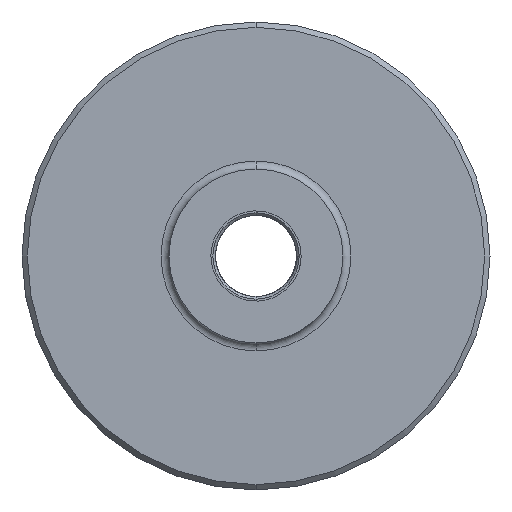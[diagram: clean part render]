
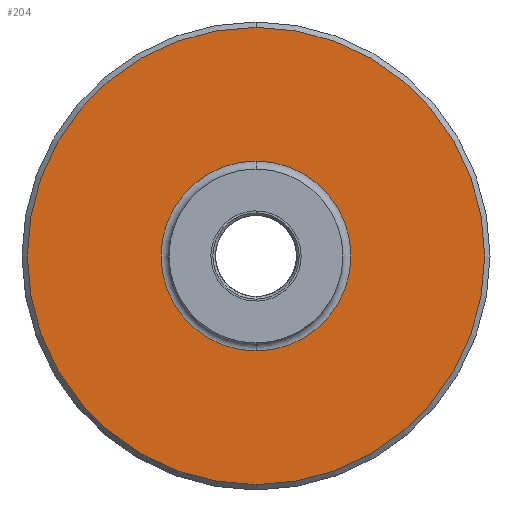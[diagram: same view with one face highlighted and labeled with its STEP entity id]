
A CAD part, front view. The second image highlights one B-rep face of the part: STEP entity #204.
In plain terms, the highlighted planar face has unit normal (0, -1, 0).
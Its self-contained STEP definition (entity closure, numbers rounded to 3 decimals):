
#204 = ADVANCED_FACE ( 'NONE', ( #16382, #22572 ), #9718, .F. ) ;
#218 = CARTESIAN_POINT ( 'NONE',  ( 131.315, -400.126, 312.532 ) ) ;
#2873 = AXIS2_PLACEMENT_3D ( 'NONE', #4724, #17586, #36328 ) ;
#3012 = VERTEX_POINT ( 'NONE', #6319 ) ;
#3342 = DIRECTION ( 'NONE',  ( 0., 0., 1. ) ) ;
#3815 = ORIENTED_EDGE ( 'NONE', *, *, #14668, .T. ) ;
#4165 = EDGE_LOOP ( 'NONE', ( #21216, #20419 ) ) ;
#4716 = EDGE_CURVE ( 'NONE', #7086, #24389, #13642, .T. ) ;
#4724 = CARTESIAN_POINT ( 'NONE',  ( 131.315, -400.126, 312.532 ) ) ;
#6319 = CARTESIAN_POINT ( 'NONE',  ( 131.315, -400.126, 398.032 ) ) ;
#6855 = EDGE_CURVE ( 'NONE', #24389, #7086, #28724, .T. ) ;
#7086 = VERTEX_POINT ( 'NONE', #37751 ) ;
#9287 = DIRECTION ( 'NONE',  ( 0., 0., 1. ) ) ;
#9718 = PLANE ( 'NONE',  #27289 ) ;
#9818 = VERTEX_POINT ( 'NONE', #20853 ) ;
#9929 = DIRECTION ( 'NONE',  ( 0., 1., 0. ) ) ;
#11615 = CIRCLE ( 'NONE', #37511, 85.5 ) ;
#13642 = CIRCLE ( 'NONE', #25552, 35.5 ) ;
#14668 = EDGE_CURVE ( 'NONE', #3012, #9818, #15118, .T. ) ;
#15118 = CIRCLE ( 'NONE', #37698, 85.5 ) ;
#15984 = CARTESIAN_POINT ( 'NONE',  ( 131.315, -400.126, 312.532 ) ) ;
#16382 = FACE_OUTER_BOUND ( 'NONE', #29989, .T. ) ;
#17586 = DIRECTION ( 'NONE',  ( 0., 1., 0. ) ) ;
#20419 = ORIENTED_EDGE ( 'NONE', *, *, #4716, .T. ) ;
#20853 = CARTESIAN_POINT ( 'NONE',  ( 131.315, -400.126, 227.032 ) ) ;
#21170 = CARTESIAN_POINT ( 'NONE',  ( 131.315, -400.126, 312.532 ) ) ;
#21216 = ORIENTED_EDGE ( 'NONE', *, *, #6855, .T. ) ;
#22572 = FACE_BOUND ( 'NONE', #4165, .T. ) ;
#22679 = EDGE_CURVE ( 'NONE', #9818, #3012, #11615, .T. ) ;
#22816 = DIRECTION ( 'NONE',  ( 0., -1., 0. ) ) ;
#24389 = VERTEX_POINT ( 'NONE', #39035 ) ;
#25032 = DIRECTION ( 'NONE',  ( 0., 0., 1. ) ) ;
#25552 = AXIS2_PLACEMENT_3D ( 'NONE', #28542, #38351, #25032 ) ;
#27289 = AXIS2_PLACEMENT_3D ( 'NONE', #218, #9929, #9287 ) ;
#28542 = CARTESIAN_POINT ( 'NONE',  ( 131.315, -400.126, 312.532 ) ) ;
#28724 = CIRCLE ( 'NONE', #2873, 35.5 ) ;
#29989 = EDGE_LOOP ( 'NONE', ( #3815, #30874 ) ) ;
#30874 = ORIENTED_EDGE ( 'NONE', *, *, #22679, .T. ) ;
#31115 = DIRECTION ( 'NONE',  ( 0., 0., 1. ) ) ;
#34475 = DIRECTION ( 'NONE',  ( 0., -1., 0. ) ) ;
#36328 = DIRECTION ( 'NONE',  ( 0., 0., 1. ) ) ;
#37511 = AXIS2_PLACEMENT_3D ( 'NONE', #15984, #22816, #3342 ) ;
#37698 = AXIS2_PLACEMENT_3D ( 'NONE', #21170, #34475, #31115 ) ;
#37751 = CARTESIAN_POINT ( 'NONE',  ( 131.315, -400.126, 277.032 ) ) ;
#38351 = DIRECTION ( 'NONE',  ( 0., 1., 0. ) ) ;
#39035 = CARTESIAN_POINT ( 'NONE',  ( 131.315, -400.126, 348.032 ) ) ;
